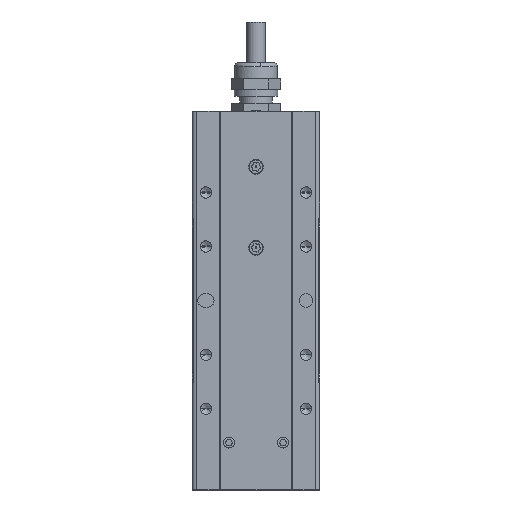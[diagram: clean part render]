
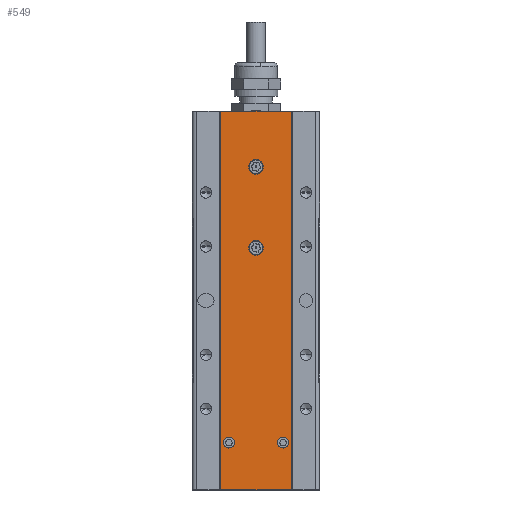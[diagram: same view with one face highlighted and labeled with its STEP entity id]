
A CAD part, front view. The second image highlights one B-rep face of the part: STEP entity #549.
In plain terms, the highlighted planar face has unit normal (0, -1, 0).
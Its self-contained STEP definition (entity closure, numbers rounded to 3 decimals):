
#234 = CARTESIAN_POINT ( 'NONE',  ( -11.473, -40.308, 14.5 ) ) ;
#353 = DIRECTION ( 'NONE',  ( -1., 0., 0. ) ) ;
#535 = DIRECTION ( 'NONE',  ( 1., 0., 0. ) ) ;
#549 = ADVANCED_FACE ( 'NONE', ( #11725, #27294, #17849, #20191, #11441 ), #22665, .F. ) ;
#644 = CARTESIAN_POINT ( 'NONE',  ( 1.277, -40.308, 86.5 ) ) ;
#660 = DIRECTION ( 'NONE',  ( 0., -1., 0. ) ) ;
#1138 = LINE ( 'NONE', #22684, #19913 ) ;
#1310 = ORIENTED_EDGE ( 'NONE', *, *, #2278, .F. ) ;
#1646 = DIRECTION ( 'NONE',  ( -1., 0., 0. ) ) ;
#2136 = DIRECTION ( 'NONE',  ( -1., 0., 0. ) ) ;
#2278 = EDGE_CURVE ( 'NONE', #17630, #23494, #20078, .T. ) ;
#2669 = VERTEX_POINT ( 'NONE', #14482 ) ;
#2986 = AXIS2_PLACEMENT_3D ( 'NONE', #3043, #18606, #5352 ) ;
#3043 = CARTESIAN_POINT ( 'NONE',  ( -1.473, -40.308, 86.5 ) ) ;
#3142 = EDGE_LOOP ( 'NONE', ( #1310, #20196 ) ) ;
#3608 = CIRCLE ( 'NONE', #27314, 2.75 ) ;
#3635 = VERTEX_POINT ( 'NONE', #19912 ) ;
#3949 = CARTESIAN_POINT ( 'NONE',  ( -9.473, -40.308, 14.5 ) ) ;
#4051 = EDGE_CURVE ( 'NONE', #14932, #3635, #6758, .T. ) ;
#4065 = CARTESIAN_POINT ( 'NONE',  ( 6.527, -40.308, 14.5 ) ) ;
#4395 = DIRECTION ( 'NONE',  ( 0., -1., 0. ) ) ;
#5064 = AXIS2_PLACEMENT_3D ( 'NONE', #24354, #26078, #15175 ) ;
#5352 = DIRECTION ( 'NONE',  ( 1., 0., 0. ) ) ;
#6758 = LINE ( 'NONE', #10676, #18908 ) ;
#7306 = CARTESIAN_POINT ( 'NONE',  ( 1.277, -40.308, 116.5 ) ) ;
#8314 = ORIENTED_EDGE ( 'NONE', *, *, #26111, .T. ) ;
#8861 = ORIENTED_EDGE ( 'NONE', *, *, #15841, .T. ) ;
#9103 = VERTEX_POINT ( 'NONE', #27052 ) ;
#9244 = DIRECTION ( 'NONE',  ( 0., 1., 0. ) ) ;
#9249 = CIRCLE ( 'NONE', #12504, 2. ) ;
#9367 = AXIS2_PLACEMENT_3D ( 'NONE', #234, #660, #24516 ) ;
#9451 = EDGE_CURVE ( 'NONE', #15031, #16275, #3608, .T. ) ;
#9522 = CARTESIAN_POINT ( 'NONE',  ( -14.473, -40.308, -1.5 ) ) ;
#9660 = VECTOR ( 'NONE', #1646, 1000. ) ;
#10387 = CARTESIAN_POINT ( 'NONE',  ( 11.527, -40.308, -3. ) ) ;
#10676 = CARTESIAN_POINT ( 'NONE',  ( -14.473, -40.308, -1.5 ) ) ;
#11275 = DIRECTION ( 'NONE',  ( 0., -1., 0. ) ) ;
#11390 = CARTESIAN_POINT ( 'NONE',  ( 8.527, -40.308, 14.5 ) ) ;
#11441 = FACE_BOUND ( 'NONE', #27057, .T. ) ;
#11725 = FACE_BOUND ( 'NONE', #19354, .T. ) ;
#11769 = CARTESIAN_POINT ( 'NONE',  ( -11.473, -40.308, 14.5 ) ) ;
#11783 = ORIENTED_EDGE ( 'NONE', *, *, #24673, .T. ) ;
#11996 = CARTESIAN_POINT ( 'NONE',  ( -14.473, -40.308, -3. ) ) ;
#12051 = CARTESIAN_POINT ( 'NONE',  ( 11.527, -40.308, 137. ) ) ;
#12504 = AXIS2_PLACEMENT_3D ( 'NONE', #11769, #27729, #23528 ) ;
#12687 = VERTEX_POINT ( 'NONE', #10387 ) ;
#13752 = EDGE_CURVE ( 'NONE', #16342, #2669, #25716, .T. ) ;
#14040 = EDGE_CURVE ( 'NONE', #19743, #9103, #27154, .T. ) ;
#14482 = CARTESIAN_POINT ( 'NONE',  ( -4.223, -40.308, 86.5 ) ) ;
#14591 = CARTESIAN_POINT ( 'NONE',  ( 11.527, -40.308, 137. ) ) ;
#14920 = EDGE_CURVE ( 'NONE', #9103, #19743, #22676, .T. ) ;
#14932 = VERTEX_POINT ( 'NONE', #20003 ) ;
#15031 = VERTEX_POINT ( 'NONE', #27675 ) ;
#15175 = DIRECTION ( 'NONE',  ( 1., 0., 0. ) ) ;
#15666 = DIRECTION ( 'NONE',  ( -1., 0., 0. ) ) ;
#15841 = EDGE_CURVE ( 'NONE', #14932, #12687, #27284, .T. ) ;
#16147 = AXIS2_PLACEMENT_3D ( 'NONE', #11390, #22028, #353 ) ;
#16275 = VERTEX_POINT ( 'NONE', #7306 ) ;
#16342 = VERTEX_POINT ( 'NONE', #644 ) ;
#17536 = DIRECTION ( 'NONE',  ( 0., 0., 1. ) ) ;
#17630 = VERTEX_POINT ( 'NONE', #3949 ) ;
#17694 = CARTESIAN_POINT ( 'NONE',  ( -1.473, -40.308, 116.5 ) ) ;
#17781 = CARTESIAN_POINT ( 'NONE',  ( -1.473, -40.308, 86.5 ) ) ;
#17849 = FACE_BOUND ( 'NONE', #3142, .T. ) ;
#18165 = DIRECTION ( 'NONE',  ( 0., 0., 1. ) ) ;
#18352 = ORIENTED_EDGE ( 'NONE', *, *, #14920, .F. ) ;
#18414 = ORIENTED_EDGE ( 'NONE', *, *, #9451, .F. ) ;
#18545 = CIRCLE ( 'NONE', #5064, 2.75 ) ;
#18606 = DIRECTION ( 'NONE',  ( 0., -1., 0. ) ) ;
#18908 = VECTOR ( 'NONE', #17536, 1000. ) ;
#19354 = EDGE_LOOP ( 'NONE', ( #26377, #18414 ) ) ;
#19690 = CARTESIAN_POINT ( 'NONE',  ( -13.473, -40.308, 14.5 ) ) ;
#19743 = VERTEX_POINT ( 'NONE', #4065 ) ;
#19912 = CARTESIAN_POINT ( 'NONE',  ( -14.473, -40.308, 137. ) ) ;
#19913 = VECTOR ( 'NONE', #18165, 1000. ) ;
#20003 = CARTESIAN_POINT ( 'NONE',  ( -14.473, -40.308, -3. ) ) ;
#20078 = CIRCLE ( 'NONE', #9367, 2. ) ;
#20191 = FACE_OUTER_BOUND ( 'NONE', #21250, .T. ) ;
#20196 = ORIENTED_EDGE ( 'NONE', *, *, #26818, .F. ) ;
#20320 = DIRECTION ( 'NONE',  ( 0., -1., 0. ) ) ;
#20734 = AXIS2_PLACEMENT_3D ( 'NONE', #17781, #4395, #26650 ) ;
#20822 = ORIENTED_EDGE ( 'NONE', *, *, #4051, .F. ) ;
#21028 = DIRECTION ( 'NONE',  ( 1., 0., 0. ) ) ;
#21099 = AXIS2_PLACEMENT_3D ( 'NONE', #9522, #9244, #15666 ) ;
#21250 = EDGE_LOOP ( 'NONE', ( #11783, #8314, #20822, #8861 ) ) ;
#21580 = LINE ( 'NONE', #14591, #9660 ) ;
#22028 = DIRECTION ( 'NONE',  ( 0., -1., 0. ) ) ;
#22474 = ORIENTED_EDGE ( 'NONE', *, *, #13752, .F. ) ;
#22512 = EDGE_CURVE ( 'NONE', #2669, #16342, #26279, .T. ) ;
#22665 = PLANE ( 'NONE',  #21099 ) ;
#22676 = CIRCLE ( 'NONE', #16147, 2. ) ;
#22684 = CARTESIAN_POINT ( 'NONE',  ( 11.527, -40.308, -1.5 ) ) ;
#23452 = AXIS2_PLACEMENT_3D ( 'NONE', #24683, #20320, #2136 ) ;
#23494 = VERTEX_POINT ( 'NONE', #19690 ) ;
#23528 = DIRECTION ( 'NONE',  ( -1., 0., 0. ) ) ;
#24097 = VECTOR ( 'NONE', #21028, 1000. ) ;
#24354 = CARTESIAN_POINT ( 'NONE',  ( -1.473, -40.308, 116.5 ) ) ;
#24516 = DIRECTION ( 'NONE',  ( -1., 0., 0. ) ) ;
#24673 = EDGE_CURVE ( 'NONE', #12687, #27896, #1138, .T. ) ;
#24683 = CARTESIAN_POINT ( 'NONE',  ( 8.527, -40.308, 14.5 ) ) ;
#24805 = EDGE_CURVE ( 'NONE', #16275, #15031, #18545, .T. ) ;
#25716 = CIRCLE ( 'NONE', #2986, 2.75 ) ;
#26078 = DIRECTION ( 'NONE',  ( 0., -1., 0. ) ) ;
#26111 = EDGE_CURVE ( 'NONE', #27896, #3635, #21580, .T. ) ;
#26279 = CIRCLE ( 'NONE', #20734, 2.75 ) ;
#26377 = ORIENTED_EDGE ( 'NONE', *, *, #24805, .F. ) ;
#26632 = ORIENTED_EDGE ( 'NONE', *, *, #22512, .F. ) ;
#26650 = DIRECTION ( 'NONE',  ( 1., 0., 0. ) ) ;
#26818 = EDGE_CURVE ( 'NONE', #23494, #17630, #9249, .T. ) ;
#27052 = CARTESIAN_POINT ( 'NONE',  ( 10.527, -40.308, 14.5 ) ) ;
#27057 = EDGE_LOOP ( 'NONE', ( #18352, #27240 ) ) ;
#27154 = CIRCLE ( 'NONE', #23452, 2. ) ;
#27240 = ORIENTED_EDGE ( 'NONE', *, *, #14040, .F. ) ;
#27284 = LINE ( 'NONE', #11996, #24097 ) ;
#27294 = FACE_BOUND ( 'NONE', #27483, .T. ) ;
#27314 = AXIS2_PLACEMENT_3D ( 'NONE', #17694, #11275, #535 ) ;
#27483 = EDGE_LOOP ( 'NONE', ( #22474, #26632 ) ) ;
#27675 = CARTESIAN_POINT ( 'NONE',  ( -4.223, -40.308, 116.5 ) ) ;
#27729 = DIRECTION ( 'NONE',  ( 0., -1., 0. ) ) ;
#27896 = VERTEX_POINT ( 'NONE', #12051 ) ;
